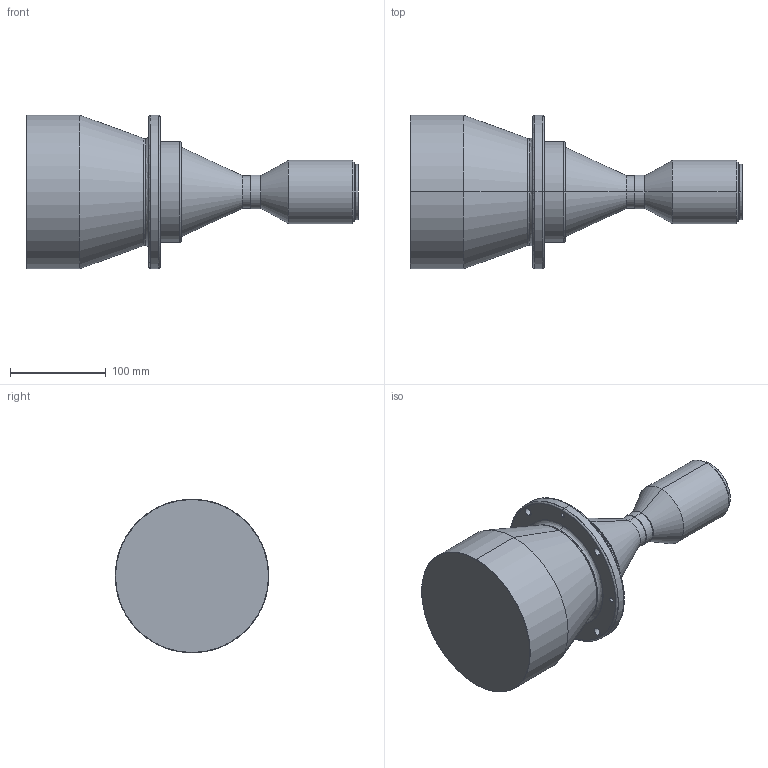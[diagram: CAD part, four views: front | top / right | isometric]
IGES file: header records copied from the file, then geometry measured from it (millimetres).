
Start section: SolidWorks IGES file using analytic representation for surfaces
Global section: file name: C:\Users\Administrator\Desktop\120H\DTCM430-120H-M58-AL\DTCM430-120H-M58-AL.IGS; native system: SolidWorks 2017; preprocessor: SolidWorks 2017; author: Administrator; date: 200117.172617; units: millimetre
Bounding box: 345.9 x 160 x 160 mm (x, y, z)
Surface area: 156581.7 mm2 (no closed solid volume)
Topology: 0 solids, 0 shells, 63 faces, 1752 edges, 1752 vertices
Faces by surface type: revolution 44, bspline 19
